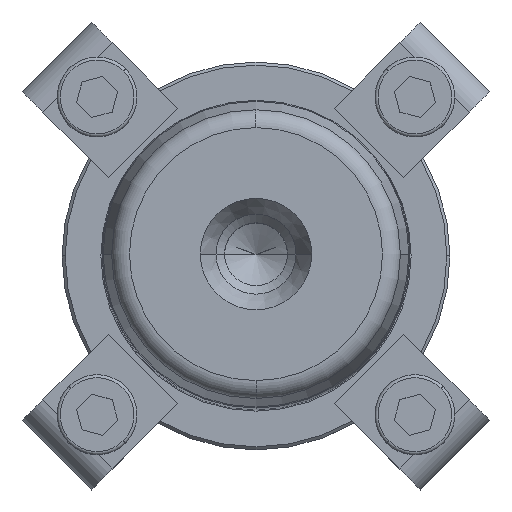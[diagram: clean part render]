
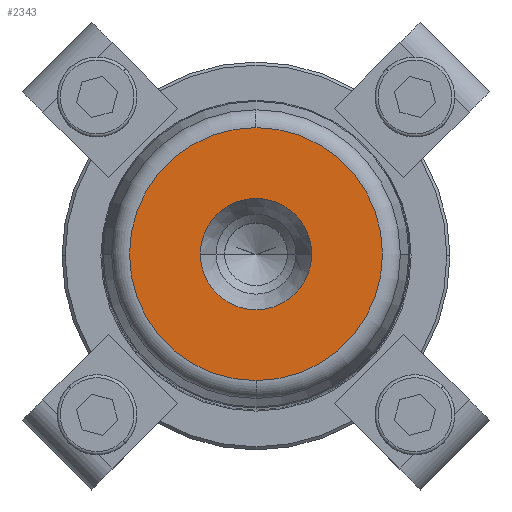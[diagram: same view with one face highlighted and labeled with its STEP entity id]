
A CAD part, top view. The second image highlights one B-rep face of the part: STEP entity #2343.
In plain terms, the highlighted planar face has unit normal (0, 0, 1).
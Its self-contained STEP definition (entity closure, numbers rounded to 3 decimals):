
#431=CARTESIAN_POINT('',(9.05,0.,180.0));
#432=VERTEX_POINT('',#431);
#439=CARTESIAN_POINT('',(-9.05,0.,180.0));
#440=VERTEX_POINT('',#439);
#441=CARTESIAN_POINT('',(0.0,0.,180.0));
#442=DIRECTION('',(0.0,0.0,1.0));
#443=DIRECTION('',(1.0,0.0,0.0));
#444=AXIS2_PLACEMENT_3D('',#441,#442,#443);
#445=CIRCLE('',#444,9.05);
#446=EDGE_CURVE('',#432,#440,#445,.T.);
#463=CARTESIAN_POINT('',(0.0,-20.554,180.));
#464=VERTEX_POINT('',#463);
#474=CARTESIAN_POINT('',(0.,20.554,180.0));
#475=VERTEX_POINT('',#474);
#476=CARTESIAN_POINT('',(0.0,0.,180.0));
#477=DIRECTION('',(0.0,0.0,1.0));
#478=DIRECTION('',(1.0,0.0,0.0));
#479=AXIS2_PLACEMENT_3D('',#476,#477,#478);
#480=CIRCLE('',#479,20.554);
#481=EDGE_CURVE('',#475,#464,#480,.T.);
#2304=CARTESIAN_POINT('',(20.554,0.,180.));
#2305=VERTEX_POINT('',#2304);
#2306=CARTESIAN_POINT('',(0.0,0.,180.0));
#2307=DIRECTION('',(0.0,0.0,1.0));
#2308=DIRECTION('',(1.0,0.0,0.0));
#2309=AXIS2_PLACEMENT_3D('',#2306,#2307,#2308);
#2310=CIRCLE('',#2309,20.554);
#2311=EDGE_CURVE('',#2305,#475,#2310,.T.);
#2313=CARTESIAN_POINT('',(0.0,0.,180.0));
#2314=DIRECTION('',(0.0,0.0,1.0));
#2315=DIRECTION('',(1.0,0.0,0.0));
#2316=AXIS2_PLACEMENT_3D('',#2313,#2314,#2315);
#2317=CIRCLE('',#2316,20.554);
#2318=EDGE_CURVE('',#464,#2305,#2317,.T.);
#2323=CARTESIAN_POINT('',(14.802,0.,180.0));
#2324=DIRECTION('',(0.0,0.0,1.0));
#2325=DIRECTION('',(0.0,-1.0,0.0));
#2326=AXIS2_PLACEMENT_3D('',#2323,#2324,#2325);
#2327=PLANE('',#2326);
#2328=ORIENTED_EDGE('',*,*,#2311,.T.);
#2329=ORIENTED_EDGE('',*,*,#481,.T.);
#2330=ORIENTED_EDGE('',*,*,#2318,.T.);
#2331=EDGE_LOOP('',(#2328,#2329,#2330));
#2332=FACE_OUTER_BOUND('',#2331,.T.);
#2333=ORIENTED_EDGE('',*,*,#446,.F.);
#2334=CARTESIAN_POINT('',(0.0,0.,180.0));
#2335=DIRECTION('',(0.0,0.0,1.0));
#2336=DIRECTION('',(1.0,0.0,0.0));
#2337=AXIS2_PLACEMENT_3D('',#2334,#2335,#2336);
#2338=CIRCLE('',#2337,9.05);
#2339=EDGE_CURVE('',#440,#432,#2338,.T.);
#2340=ORIENTED_EDGE('',*,*,#2339,.F.);
#2341=EDGE_LOOP('',(#2333,#2340));
#2342=FACE_BOUND('',#2341,.T.);
#2343=ADVANCED_FACE('',(#2332,#2342),#2327,.T.);
